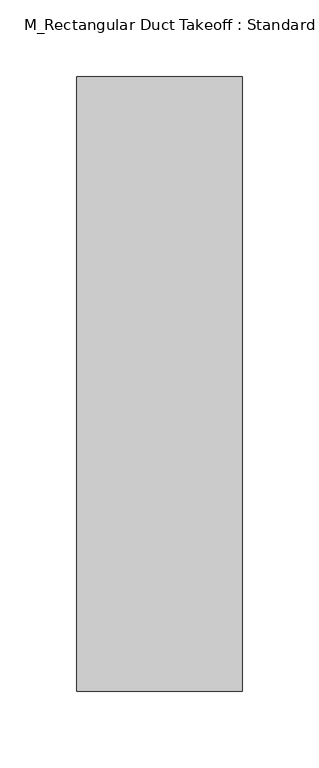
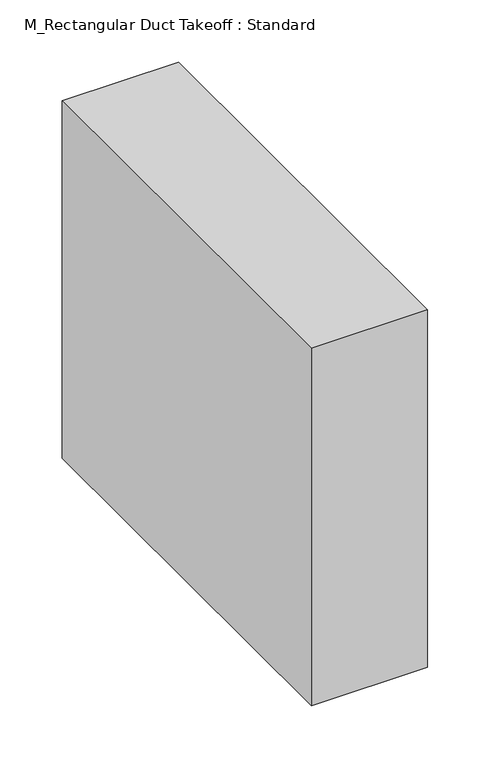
"""IFC4 building model written with IfcOpenShell, lengths in millimetres: duct fitting geometry, M_Rectangular Duct Takeoff : Standard."""

import ifcopenshell
import ifcopenshell.guid

model = None  # the IFC model being written
_history = None  # IfcOwnerHistory: only IFC2X3 demands one
_inside = {}  # id of a spatial element -> (the spatial element, [elements in it])
_under = {}  # id of a project, library or spatial element -> (it, [spatial elements below it])
_declared = {}  # id of a project -> (the project, [libraries it declares])
_typed = {}  # id of a type object -> (the type object, [elements of that type])
_made_of = {}  # id of a material, layer set ... -> (it, [elements and type objects made of it])


def new_model(schema):
    """Start an empty IFC model of exactly this schema.

    Asked for "IFC4X3", IfcOpenShell would pick the latest addendum, in which some entities
    have other attributes; the version numbers below select the first issue.
    IFC2X3 requires an IfcOwnerHistory on every rooted entity: one is made here for all.
    """
    global model, _history
    if schema == "IFC4X3":
        model = ifcopenshell.file(schema_version=(4, 3, 0, 0))
    else:
        model = ifcopenshell.file(schema=schema)
    _inside.clear()
    _under.clear()
    _declared.clear()
    _typed.clear()
    _made_of.clear()
    _history = None
    if model.schema == "IFC2X3":
        org = make("IfcOrganization", Name="unknown")
        user = make(
            "IfcPersonAndOrganization",
            ThePerson=make("IfcPerson", FamilyName="unknown"),
            TheOrganization=org,
        )
        app = make(
            "IfcApplication",
            ApplicationDeveloper=org,
            Version="unknown",
            ApplicationFullName="unknown",
            ApplicationIdentifier="unknown",
        )
        _history = make(
            "IfcOwnerHistory",
            OwningUser=user,
            OwningApplication=app,
            ChangeAction="ADDED",
            CreationDate=0,
        )
    return model


def make(cls, **values):
    """One entity of the class cls with the attributes given. An attribute that is None is left unset."""
    return model.create_entity(
        cls, **{name: value for name, value in values.items() if value is not None}
    )


def rooted(cls, **values):
    """An entity with a GlobalId (a new one), such as an element, a storey or a relation."""
    return make(cls, GlobalId=ifcopenshell.guid.new(), OwnerHistory=_history, **values)


def si_unit(unit_type, name, prefix=None):
    """IfcSIUnit, for example si_unit("LENGTHUNIT", "METRE", prefix="MILLI")."""
    return make("IfcSIUnit", UnitType=unit_type, Prefix=prefix, Name=name)


def assignment(units):
    """IfcUnitAssignment: the units of a project."""
    return None if units is None else make("IfcUnitAssignment", Units=units)


def point(xyz):
    """IfcCartesianPoint."""
    return None if xyz is None else make("IfcCartesianPoint", Coordinates=xyz)


def direction(xyz):
    """IfcDirection."""
    return None if xyz is None else make("IfcDirection", DirectionRatios=xyz)


def frame(location, z_axis=None, x_axis=None):
    """IfcAxis2Placement3D, a coordinate frame: its origin and axes. An axis left out is left unset."""
    return make(
        "IfcAxis2Placement3D",
        Location=point(location),
        Axis=direction(z_axis),
        RefDirection=direction(x_axis),
    )


def origin():
    """The frame at (0, 0, 0) with its axes left unset."""
    return frame((0.0, 0.0, 0.0))


def place(relative_to, where):
    """IfcLocalPlacement: puts the frame where relative to a parent placement (None: the world)."""
    return make(
        "IfcLocalPlacement", PlacementRelTo=relative_to, RelativePlacement=where
    )


def context(
    kind, dimensions, precision=None, world=None, true_north=None, identifier=None
):
    """IfcGeometricRepresentationContext, for example the 3D "Model" context."""
    return make(
        "IfcGeometricRepresentationContext",
        ContextIdentifier=identifier,
        ContextType=kind,
        CoordinateSpaceDimension=dimensions,
        Precision=precision,
        WorldCoordinateSystem=world,
        TrueNorth=true_north,
    )


def project(units=None, contexts=None):
    """IfcProject with its units and contexts."""
    return rooted(
        "IfcProject",
        Name="project",
        RepresentationContexts=contexts,
        UnitsInContext=assignment(units),
    )


def spatial(cls, under=None, at=None, **own):
    """A site, building, storey or space (cls), placed at a placement, below another one or the project."""
    s = rooted(cls, ObjectPlacement=at, **own)
    if under is not None:
        _under.setdefault(under.id(), (under, []))[1].append(s)
    return s


def polyline(points):
    """IfcPolyline through the points."""
    return make("IfcPolyline", Points=[point(p) for p in points])


def outline(outer, holes=None, kind="AREA"):
    """IfcArbitraryClosedProfileDef: a profile drawn as a closed curve; with holes, ...WithVoids."""
    if holes is None:
        return make("IfcArbitraryClosedProfileDef", ProfileType=kind, OuterCurve=outer)
    return make(
        "IfcArbitraryProfileDefWithVoids",
        ProfileType=kind,
        OuterCurve=outer,
        InnerCurves=holes,
    )


def extrude(swept, where, along, depth):
    """IfcExtrudedAreaSolid: the profile swept, set in the frame where, extruded along a direction by depth."""
    return make(
        "IfcExtrudedAreaSolid",
        SweptArea=swept,
        Position=where,
        ExtrudedDirection=direction(along),
        Depth=depth,
    )


def shape(context_of_items, identifier, shape_type, items):
    """IfcShapeRepresentation: the items that make up one representation, for example the "Body"."""
    return make(
        "IfcShapeRepresentation",
        ContextOfItems=context_of_items,
        RepresentationIdentifier=identifier,
        RepresentationType=shape_type,
        Items=items,
    )


def source(mapping_origin, context_of_items, identifier, shape_type, items):
    """IfcRepresentationMap: a shape defined once, which mapped items show again and again."""
    return make(
        "IfcRepresentationMap",
        MappingOrigin=mapping_origin,
        MappedRepresentation=shape(context_of_items, identifier, shape_type, items),
    )


def transform(
    local_origin,
    x_axis=None,
    y_axis=None,
    z_axis=None,
    scale=None,
    scale2=None,
    scale3=None,
    uniform=True,
):
    """IfcCartesianTransformationOperator3D, or its non-uniform kind. x_axis, y_axis, z_axis: its Axis1, 2, 3."""
    if uniform:
        return make(
            "IfcCartesianTransformationOperator3D",
            Axis1=direction(x_axis),
            Axis2=direction(y_axis),
            LocalOrigin=point(local_origin),
            Scale=scale,
            Axis3=direction(z_axis),
        )
    return make(
        "IfcCartesianTransformationOperator3DnonUniform",
        Axis1=direction(x_axis),
        Axis2=direction(y_axis),
        LocalOrigin=point(local_origin),
        Scale=scale,
        Axis3=direction(z_axis),
        Scale2=scale2,
        Scale3=scale3,
    )


def mapped(mapping_source, mapping_target):
    """IfcMappedItem: shows the shape of a source again, moved by a transform."""
    return make(
        "IfcMappedItem", MappingSource=mapping_source, MappingTarget=mapping_target
    )


def made_of(thing, what):
    """Note that an element or type object is made of a material, layer set ...; save() writes the relation."""
    if what is not None:
        _made_of.setdefault(what.id(), (what, []))[1].append(thing)
    return thing


def element(
    cls,
    number,
    at=None,
    inside=None,
    cuts=None,
    type_object=None,
    material=None,
    context=None,
    identifier="Body",
    shape_type=None,
    held_by="IfcProductDefinitionShape",
    body=None,
    shapes=None,
    **own,
):
    """One element of the class cls, such as IfcWall. Its Tag is "e" and its number.

    at: its placement. inside: the storey or other place that contains it. cuts: it is an
    opening in that element (IfcRelVoidsElement). A single representation is given by context,
    identifier, shape_type and body (its items); several are given by shapes. held_by: the class
    of the entity that holds the representations. save() writes the other relations.
    """
    e = rooted(cls, Tag="e%d" % number, ObjectPlacement=at, **own)
    if body is not None:
        shapes = [shape(context, identifier, shape_type, body)]
    if shapes is not None:
        e.Representation = make(held_by, Representations=shapes)
    if inside is not None:
        _inside.setdefault(inside.id(), (inside, []))[1].append(e)
    if cuts is not None:
        rooted(
            "IfcRelVoidsElement", RelatingBuildingElement=cuts, RelatedOpeningElement=e
        )
    if type_object is not None:
        _typed.setdefault(type_object.id(), (type_object, []))[1].append(e)
    return made_of(e, material)


def aggregate(whole, parts):
    """IfcRelAggregates: a whole, such as a stair, and the parts it consists of."""
    return rooted("IfcRelAggregates", RelatingObject=whole, RelatedObjects=parts)


def save(model, path):
    """Write the relations noted so far, then the file.

    IfcRelAggregates (storeys below a building ...), IfcRelContainedInSpatialStructure (elements
    in a storey), IfcRelDefinesByType, IfcRelAssociatesMaterial and IfcRelDeclares: one each for
    every whole, place, type object, material and project.
    """
    for whole, parts in _under.values():
        aggregate(whole, parts)
    for where, things in _inside.values():
        rooted(
            "IfcRelContainedInSpatialStructure",
            RelatedElements=things,
            RelatingStructure=where,
        )
    for kind, things in _typed.values():
        rooted("IfcRelDefinesByType", RelatedObjects=things, RelatingType=kind)
    for what, things in _made_of.values():
        rooted("IfcRelAssociatesMaterial", RelatedObjects=things, RelatingMaterial=what)
    for by, libraries in _declared.values():
        rooted("IfcRelDeclares", RelatingContext=by, RelatedDefinitions=libraries)
    model.write(path)


def m_rectangular_duct_takeoff_standard_89820bfc(model_context):
    return source(origin(), model_context, "Body", "SweptSolid", [
        extrude(outline(polyline([(-6.096, 200.0), (101.6, 200.0), (101.6, -200.0), (-6.096, -200.0), (-6.096, 200.0)])), frame((0.0, 0.0, -175.0), z_axis=(0.0, 0.0, 1.0), x_axis=(1.0, 0.0, 0.0)), (0.0, 0.0, 1.0), 350.0),
        extrude(outline(polyline([(-6.096, 200.0), (101.6, 200.0), (101.6, -200.0), (-6.096, -200.0), (-6.096, 200.0)])), frame((0.0, 0.0, -175.0), z_axis=(0.0, 0.0, 1.0), x_axis=(1.0, 0.0, 0.0)), (0.0, 0.0, 1.0), 350.0),
        extrude(outline(polyline([(-6.096, 200.0), (101.6, 200.0), (101.6, -200.0), (-6.096, -200.0), (-6.096, 200.0)])), frame((0.0, 0.0, -175.0), z_axis=(0.0, 0.0, 1.0), x_axis=(1.0, 0.0, 0.0)), (0.0, 0.0, 1.0), 350.0),
    ])


if __name__ == "__main__":
    model = new_model("IFC4")
    model_context = context("Model", 3, world=origin())
    ifc_project = project(units=[si_unit("LENGTHUNIT", "METRE", prefix="MILLI")], contexts=[model_context])
    site = spatial("IfcSite", under=ifc_project)
    building = spatial("IfcBuilding", under=site)
    placement = place(None, origin())
    m_rectangular_duct_takeoff_standard_shape = m_rectangular_duct_takeoff_standard_89820bfc(model_context)
    element("IfcDuctFitting", 1, ObjectType="M_Rectangular Duct Takeoff : Standard", at=placement, inside=building, context=model_context, shape_type="MappedRepresentation", body=[
        mapped(m_rectangular_duct_takeoff_standard_shape, transform((0.0, 0.0, 0.0), x_axis=(1.0, 0.0, 0.0), y_axis=(0.0, 1.0, 0.0), z_axis=(0.0, 0.0, 1.0))),
    ])
    save(model, "model.ifc")
